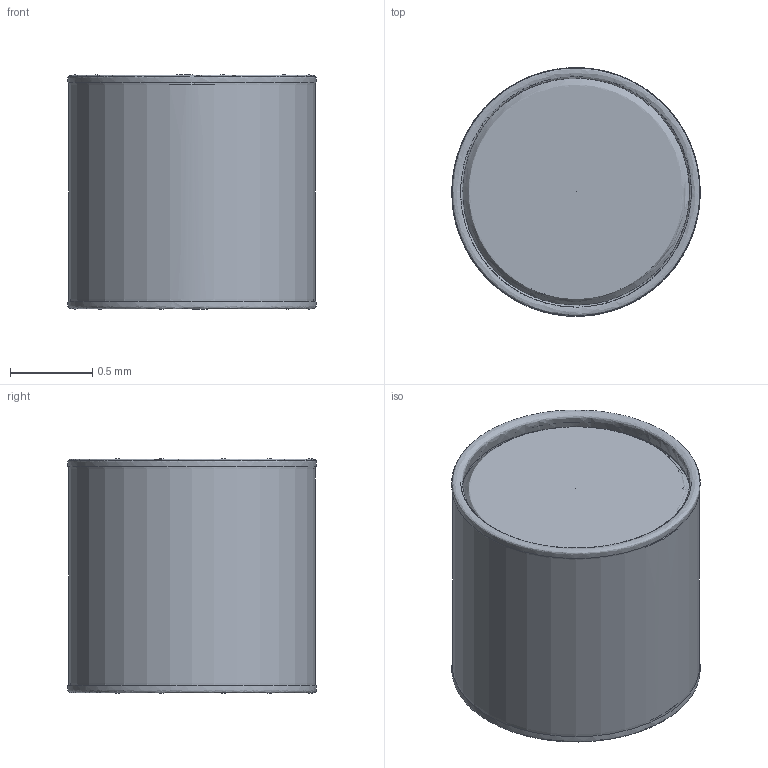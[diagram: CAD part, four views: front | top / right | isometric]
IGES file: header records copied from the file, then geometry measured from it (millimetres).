
Global section: file name: /home/lore/2005/xcmodel_3.2/surfaces/Tom1.igs; native system: XCMODEL ver.3.0 Universita' di Bologna; preprocessor: formato IGES Nov. 2001; date: 060219.232949; units: millimetre
Bounding box: 1.51 x 1.51 x 1.42 mm (x, y, z)
Surface area: 11 mm2 (no closed solid volume)
Topology: 0 solids, 0 shells, 5 faces, 15 edges, 10 vertices
Faces by surface type: bspline 5
